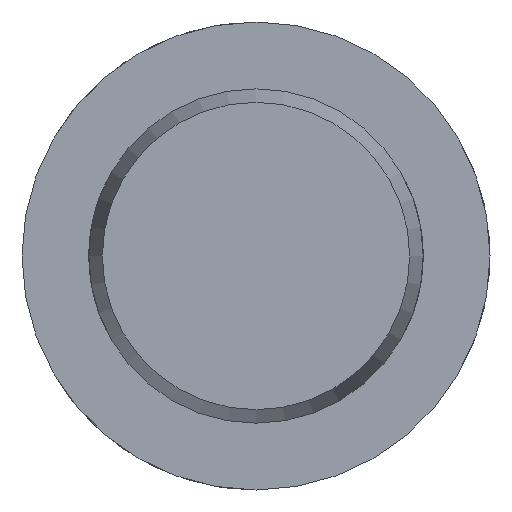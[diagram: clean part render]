
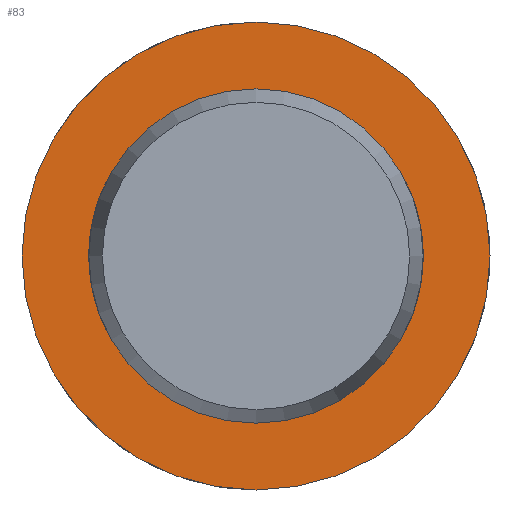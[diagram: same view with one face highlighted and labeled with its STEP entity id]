
A CAD part, left-side view. The second image highlights one B-rep face of the part: STEP entity #83.
In plain terms, the highlighted planar face has unit normal (-1, 0, 0).
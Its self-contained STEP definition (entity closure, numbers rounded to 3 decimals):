
#83 = ADVANCED_FACE( '', ( #128, #129 ), #130, .F. );
#128 = FACE_OUTER_BOUND( '', #204, .T. );
#129 = FACE_BOUND( '', #205, .T. );
#130 = PLANE( '', #206 );
#204 = EDGE_LOOP( '', ( #318 ) );
#205 = EDGE_LOOP( '', ( #319 ) );
#206 = AXIS2_PLACEMENT_3D( '', #320, #321, #322 );
#318 = ORIENTED_EDGE( '', *, *, #481, .F. );
#319 = ORIENTED_EDGE( '', *, *, #471, .T. );
#320 = CARTESIAN_POINT( '', ( 89.6, 5., 0. ) );
#321 = DIRECTION( '', ( 1., 0., 0. ) );
#322 = DIRECTION( '', ( 0., 0., -1. ) );
#471 = EDGE_CURVE( '', #541, #541, #542, .T. );
#481 = EDGE_CURVE( '', #559, #559, #560, .T. );
#541 = VERTEX_POINT( '', #726 );
#542 = CIRCLE( '', #727, 5. );
#559 = VERTEX_POINT( '', #881 );
#560 = CIRCLE( '', #882, 7. );
#726 = CARTESIAN_POINT( '', ( 89.6, 0., -5. ) );
#727 = AXIS2_PLACEMENT_3D( '', #943, #944, #945 );
#881 = CARTESIAN_POINT( '', ( 89.6, 0., -7. ) );
#882 = AXIS2_PLACEMENT_3D( '', #964, #965, #966 );
#943 = CARTESIAN_POINT( '', ( 89.6, 0., 0. ) );
#944 = DIRECTION( '', ( 1., 0., 0. ) );
#945 = DIRECTION( '', ( 0., 0., -1. ) );
#964 = CARTESIAN_POINT( '', ( 89.6, 0., 0. ) );
#965 = DIRECTION( '', ( 1., 0., 0. ) );
#966 = DIRECTION( '', ( 0., 0., -1. ) );
